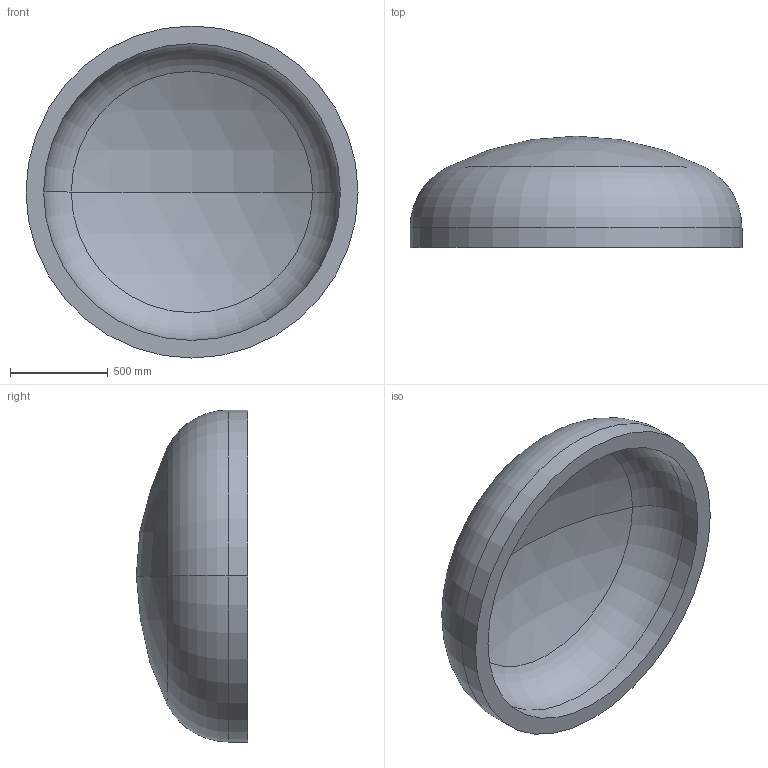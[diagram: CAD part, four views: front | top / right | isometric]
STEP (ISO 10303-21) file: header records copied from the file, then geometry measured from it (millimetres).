
FILE_DESCRIPTION (( 'STEP AP203' ), '1' );
FILE_NAME ('DIN 28013 Korbbogenform_-_Boden DIN 28013 - 1700 x 100 - I - s=90.step', '2016-07-01T12:05:33', ( '' ), ( '' ), 'SwSTEP 2.0', 'SolidWorks 2013', '' );
FILE_SCHEMA (( 'CONFIG_CONTROL_DESIGN' ));
Length unit declared in the file: millimetre
Products named in the file (1): DIN 28013 Korbbogenform_-_Boden DIN 28013 - 1700 x 100 - I - s=90
Bounding box: 1700 x 570.2 x 1700 mm (x, y, z)
Volume: 309511419 mm3; surface area: 7350211.1 mm2
Topology: 1 solids, 1 shells, 13 faces, 24 edges, 14 vertices
Faces by surface type: torus 4, cylinder 4, sphere 4, plane 1
Entity records: 407 total; most frequent: DIRECTION 72, CARTESIAN_POINT 52, ORIENTED_EDGE 48, AXIS2_PLACEMENT_3D 34, EDGE_CURVE 24, CIRCLE 20, EDGE_LOOP 14, VERTEX_POINT 14
